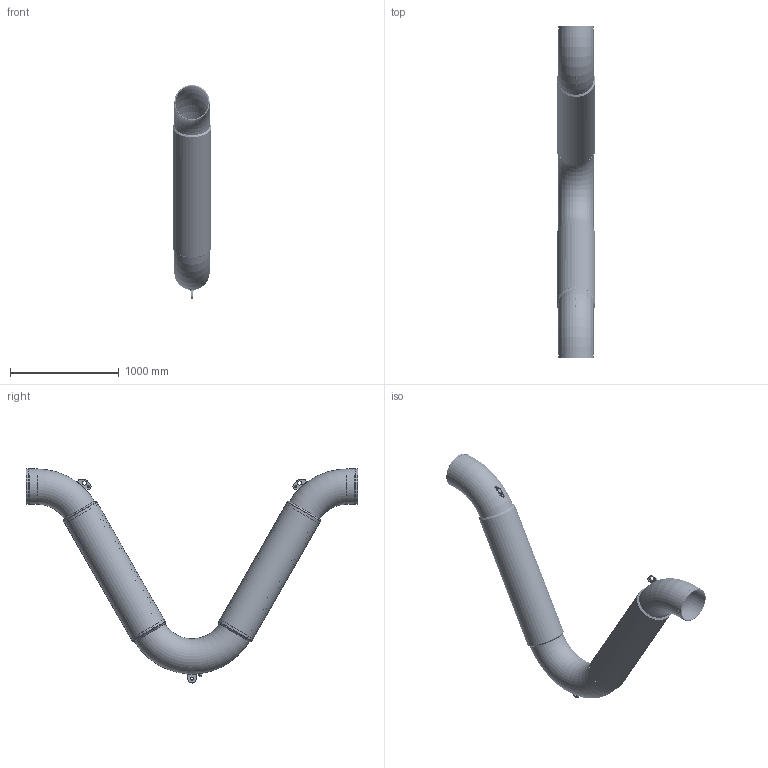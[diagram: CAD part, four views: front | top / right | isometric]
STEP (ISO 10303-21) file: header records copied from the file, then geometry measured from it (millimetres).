
FILE_DESCRIPTION((''),'2;1');
FILE_NAME('\\Mleuckt7400\cad-proe_solids2\WEBSITE FILES 05.22.13\STEP\VGWN\VGWN-12.stp','2013-07-23T11:08:47',('rramoutar'),(''),'Autodesk Inventor 2012','Autodesk Inventor 2012','');
FILE_SCHEMA(('AUTOMOTIVE_DESIGN { 1 0 10303 214 1 1 1 1 }'));
Length unit declared in the file: inch
Products named in the file (12): A-30593-3 VGN 12 INCH.iam (LevelofDetail1); A-30593-3 VGN 12 INCH.iam (LevelofDetail1)_Welds; A-30593-3 ELBOW 120 DEG FOR 12 INCH VGN; A-28697-2 SUPORT CLIP VGN,VFL 10INCH & 12INCH; A-30713 A36 STEEL COUPLING 0.5 inch; A-30713 A36 STEEL PLUG 0.5 inch; A-30593-3 VGN 12 INCH NIPPLE; A-30593-3 ELBOW 60 DEG FOR 12 INCH VGN; A-29781-7 12.0 inch braid collar; A-30593-3 VGN-12 BRAID; A-29781-7 VGN 12.0 inch STAINLESS STEEL HOSE; A-29799-1 CLIP VGN,VFL 5 TO 12 INCH
Assembly tree (19 placements, depth 2):
  A-30593-3 VGN 12 INCH.iam (LevelofDetail1)
    A-30593-3 VGN 12 INCH.iam (LevelofDetail1)_Welds
    A-30593-3 ELBOW 120 DEG FOR 12 INCH VGN
    A-28697-2 SUPORT CLIP VGN,VFL 10INCH & 12INCH
    A-30713 A36 STEEL COUPLING 0.5 inch
    A-30713 A36 STEEL PLUG 0.5 inch
    A-30593-3 VGN 12 INCH NIPPLE  x2
    A-30593-3 ELBOW 60 DEG FOR 12 INCH VGN  x2
    A-29781-7 12.0 inch braid collar  x4
    A-30593-3 VGN-12 BRAID  x2
    A-29781-7 VGN 12.0 inch STAINLESS STEEL HOSE  x2
    A-29799-1 CLIP VGN,VFL 5 TO 12 INCH  x2
Bounding box: 353.86 x 3048 x 1965.33 mm (x, y, z)
Volume: 29056198.4 mm3; surface area: 28560319.5 mm2
Topology: 26 solids, 26 shells, 1481 faces, 2306 edges, 1538 vertices
Faces by surface type: plane 740, torus 682, cylinder 40, bspline 15, cone 4
Full cylindrical faces by diameter (mm): 15.875 x2, 18.256 x1, 21.336 x2, 25.4 x1, 28.575 x3, 38.1 x2, 304.8 x2, 318.287 x2, 323.85 x4, 350.52 x2, 351.536 x4, 352.552 x2, 353.917 x4
Entity records: 29937 total; most frequent: CARTESIAN_POINT 16084, DIRECTION 3099, ORIENTED_EDGE 1710, AXIS2_PLACEMENT_3D 1527, EDGE_LOOP 1498, EDGE_CURVE 855, VERTEX_POINT 809, FACE_OUTER_BOUND 773
